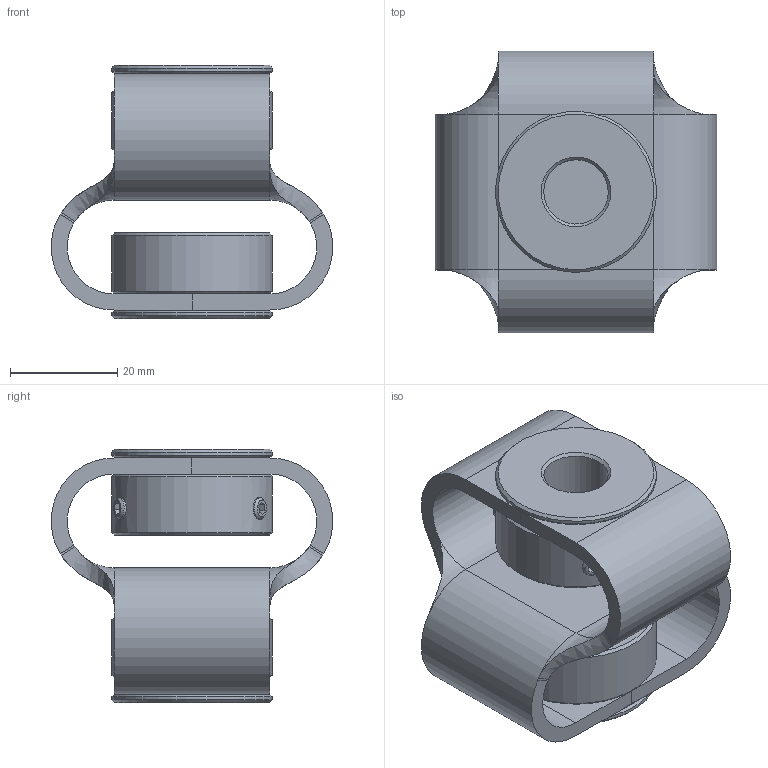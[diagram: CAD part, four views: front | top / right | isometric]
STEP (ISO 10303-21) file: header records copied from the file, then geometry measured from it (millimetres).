
FILE_DESCRIPTION(/* description */ ('Stern'),/* implementation_level */ '2;1');
FILE_NAME(/* name */ 'Z:\ABP-Antriebstechnik\Entwicklung-3D\Paguflex\DKPSX5658\DKPSX5658 12 12.stp',/* time_stamp */ '2021-06-21T11:46:07+02:00',/* author */ ('christian.fehrenbach'),/* organization */ (''),/* preprocessor_version */ 'ST-DEVELOPER v16.1',/* originating_system */ 'Autodesk Inventor 2016',/* authorisation */ '');
FILE_SCHEMA (('AUTOMOTIVE_DESIGN { 1 0 10303 214 3 1 1 }'));
Length unit declared in the file: millimetre
Products named in the file (4): DKPS 5658 Stern gebogen; Schraubnabe 2915 12; DIN 916 - M4  x  6; DKPSX5658 12 12
Assembly tree (7 placements, depth 2):
  DKPSX5658 12 12
    DKPS 5658 Stern gebogen
    Schraubnabe 2915 12  x2
    DIN 916 - M4  x  6  x4
Bounding box: 52.48 x 52.48 x 47.2 mm (x, y, z)
Volume: 33450.8 mm3; surface area: 20993.6 mm2
Topology: 7 solids, 11 shells, 158 faces, 342 edges, 194 vertices
Faces by surface type: plane 82, cylinder 28, cone 28, bspline 12, torus 8
Full cylindrical faces by diameter (mm): 4 x4, 4.134 x4, 12 x2, 22 x2, 30 x4
Entity records: 2868 total; most frequent: CARTESIAN_POINT 927, DIRECTION 380, ORIENTED_EDGE 368, EDGE_CURVE 176, AXIS2_PLACEMENT_3D 151, EDGE_LOOP 112, VERTEX_POINT 108, FACE_OUTER_BOUND 88
